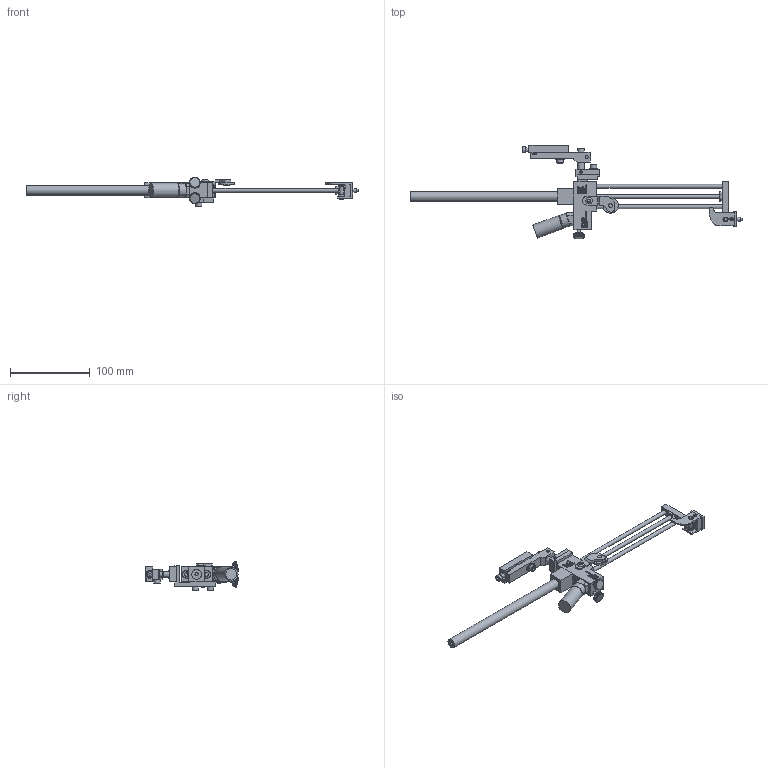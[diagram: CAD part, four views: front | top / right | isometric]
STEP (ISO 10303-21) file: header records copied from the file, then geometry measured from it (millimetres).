
FILE_DESCRIPTION((''),'2;1');
FILE_NAME('C:\Documents and Settings\Ron\My Documents\Inventor\Sprinter Drawing\Machines in Inventor\Model 44\Dot\1-eight\Ext Str\E4\Brkt\Ext\Model 44 E4 .125 dia dot Ext w Brkt.stp','2009-01-26T09:03:33',('Ron'),(''),'Autodesk Inventor 2008','Autodesk Inventor 2008','');
FILE_SCHEMA(('AUTOMOTIVE_DESIGN { 1 0 10303 214 1 1 1 1 }'));
Length unit declared in the file: inch
Products named in the file (1): Model 44 E4 .125 dia dot Ext w Brkt
Bounding box: 415.06 x 117.12 x 36.82 mm (x, y, z)
Volume: 121058.1 mm3; surface area: 59048.6 mm2
Topology: 27 solids, 27 shells, 6205 faces, 15404 edges, 9528 vertices
Faces by surface type: plane 4367, bspline 1315, cylinder 470, cone 48, torus 5
Full cylindrical faces by diameter (mm): 3.175 x5, 3.302 x1, 3.962 x1, 4.064 x7, 4.166 x1, 4.699 x1, 4.75 x4, 4.775 x1, 4.826 x8, 5.144 x1, 5.156 x5, 5.207 x2, 5.41 x2, 6.096 x1, 6.274 x2, 7.239 x1, 7.62 x1, 7.925 x7, 7.938 x1, 8.128 x1, 9.017 x1, 9.525 x2, 10.312 x4, 10.922 x1, 11.036 x1, 11.938 x2, 14.478 x1, 16.256 x1, 17.272 x1, 19.05 x1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
Entity records: 197573 total; most frequent: CARTESIAN_POINT 54030, ORIENTED_EDGE 30366, DIRECTION 23615, EDGE_CURVE 15183, VECTOR 11395, LINE 11395, VERTEX_POINT 9464, EDGE_LOOP 6765
